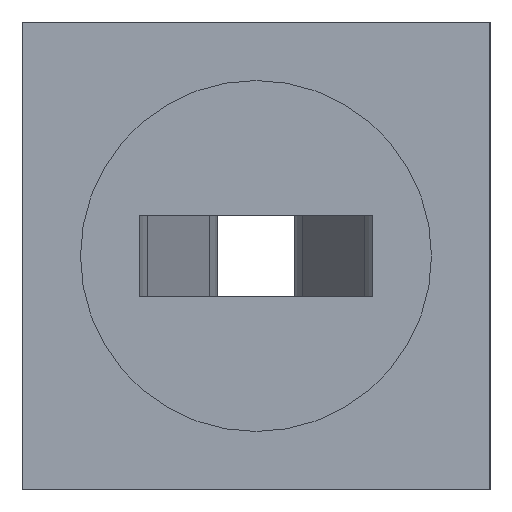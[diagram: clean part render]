
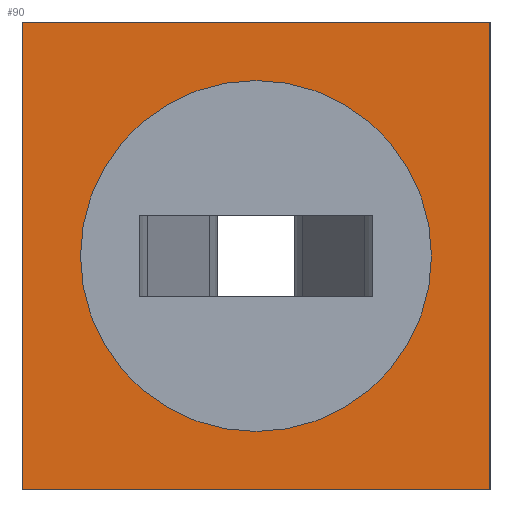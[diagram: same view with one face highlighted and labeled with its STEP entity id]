
A CAD part, left-side view. The second image highlights one B-rep face of the part: STEP entity #90.
In plain terms, the highlighted planar face has unit normal (-1, 0, 0).
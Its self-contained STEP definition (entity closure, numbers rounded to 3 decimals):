
#4 = EDGE_CURVE ( 'NONE', #802, #142, #671, .T. ) ;
#14 = VECTOR ( 'NONE', #76, 1000. ) ;
#24 = DIRECTION ( 'NONE',  ( -1., 0., 0. ) ) ;
#31 = VECTOR ( 'NONE', #734, 1000. ) ;
#59 = DIRECTION ( 'NONE',  ( 1., 0., 0. ) ) ;
#61 = ORIENTED_EDGE ( 'NONE', *, *, #388, .F. ) ;
#73 = DIRECTION ( 'NONE',  ( 0., 0., -1. ) ) ;
#76 = DIRECTION ( 'NONE',  ( 0., 0., -1. ) ) ;
#90 = ADVANCED_FACE ( 'NONE', ( #530, #983 ), #223, .F. ) ;
#103 = CARTESIAN_POINT ( 'NONE',  ( 0., 0., 20. ) ) ;
#135 = CARTESIAN_POINT ( 'NONE',  ( 0., 40., 20. ) ) ;
#136 = EDGE_LOOP ( 'NONE', ( #299, #61, #525, #390 ) ) ;
#142 = VERTEX_POINT ( 'NONE', #262 ) ;
#167 = ORIENTED_EDGE ( 'NONE', *, *, #4, .F. ) ;
#194 = CARTESIAN_POINT ( 'NONE',  ( 0., 0., -20. ) ) ;
#223 = PLANE ( 'NONE',  #925 ) ;
#230 = VERTEX_POINT ( 'NONE', #194 ) ;
#251 = CARTESIAN_POINT ( 'NONE',  ( 0., 20., 0. ) ) ;
#262 = CARTESIAN_POINT ( 'NONE',  ( 0., 20., -15. ) ) ;
#299 = ORIENTED_EDGE ( 'NONE', *, *, #939, .T. ) ;
#327 = CARTESIAN_POINT ( 'NONE',  ( 0., 20., 15. ) ) ;
#330 = LINE ( 'NONE', #526, #31 ) ;
#335 = EDGE_CURVE ( 'NONE', #944, #924, #809, .T. ) ;
#373 = CARTESIAN_POINT ( 'NONE',  ( 0., 0., 20. ) ) ;
#388 = EDGE_CURVE ( 'NONE', #540, #230, #472, .T. ) ;
#390 = ORIENTED_EDGE ( 'NONE', *, *, #335, .T. ) ;
#412 = ORIENTED_EDGE ( 'NONE', *, *, #792, .F. ) ;
#468 = CARTESIAN_POINT ( 'NONE',  ( 0., 40., 20. ) ) ;
#472 = LINE ( 'NONE', #536, #770 ) ;
#504 = VECTOR ( 'NONE', #708, 1000. ) ;
#525 = ORIENTED_EDGE ( 'NONE', *, *, #812, .F. ) ;
#526 = CARTESIAN_POINT ( 'NONE',  ( 0., 0., -20. ) ) ;
#530 = FACE_BOUND ( 'NONE', #956, .T. ) ;
#533 = CIRCLE ( 'NONE', #972, 15. ) ;
#536 = CARTESIAN_POINT ( 'NONE',  ( 0., 0., 20. ) ) ;
#540 = VERTEX_POINT ( 'NONE', #730 ) ;
#550 = DIRECTION ( 'NONE',  ( -1., 0., 0. ) ) ;
#554 = AXIS2_PLACEMENT_3D ( 'NONE', #691, #550, #73 ) ;
#589 = DIRECTION ( 'NONE',  ( 0., 0., -1. ) ) ;
#633 = DIRECTION ( 'NONE',  ( 0., 0., -1. ) ) ;
#671 = CIRCLE ( 'NONE', #554, 15. ) ;
#691 = CARTESIAN_POINT ( 'NONE',  ( 0., 20., 0. ) ) ;
#708 = DIRECTION ( 'NONE',  ( 0., -1., 0. ) ) ;
#730 = CARTESIAN_POINT ( 'NONE',  ( 0., 0., 20. ) ) ;
#734 = DIRECTION ( 'NONE',  ( 0., -1., 0. ) ) ;
#770 = VECTOR ( 'NONE', #589, 1000. ) ;
#792 = EDGE_CURVE ( 'NONE', #142, #802, #533, .T. ) ;
#802 = VERTEX_POINT ( 'NONE', #327 ) ;
#809 = LINE ( 'NONE', #468, #14 ) ;
#812 = EDGE_CURVE ( 'NONE', #944, #540, #931, .T. ) ;
#883 = DIRECTION ( 'NONE',  ( 0., 0., -1. ) ) ;
#924 = VERTEX_POINT ( 'NONE', #964 ) ;
#925 = AXIS2_PLACEMENT_3D ( 'NONE', #373, #59, #883 ) ;
#931 = LINE ( 'NONE', #103, #504 ) ;
#939 = EDGE_CURVE ( 'NONE', #924, #230, #330, .T. ) ;
#944 = VERTEX_POINT ( 'NONE', #135 ) ;
#956 = EDGE_LOOP ( 'NONE', ( #412, #167 ) ) ;
#964 = CARTESIAN_POINT ( 'NONE',  ( 0., 40., -20. ) ) ;
#972 = AXIS2_PLACEMENT_3D ( 'NONE', #251, #24, #633 ) ;
#983 = FACE_OUTER_BOUND ( 'NONE', #136, .T. ) ;
